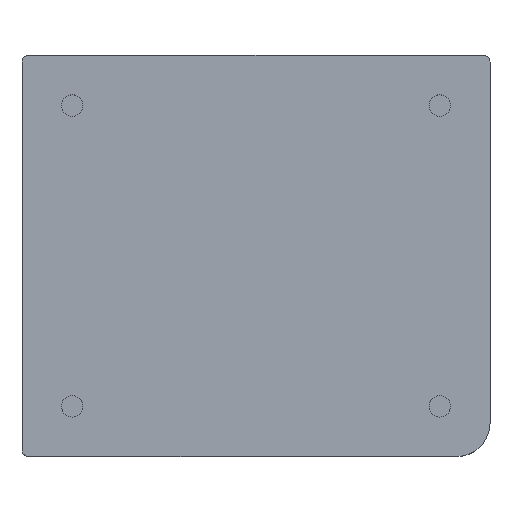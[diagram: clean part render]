
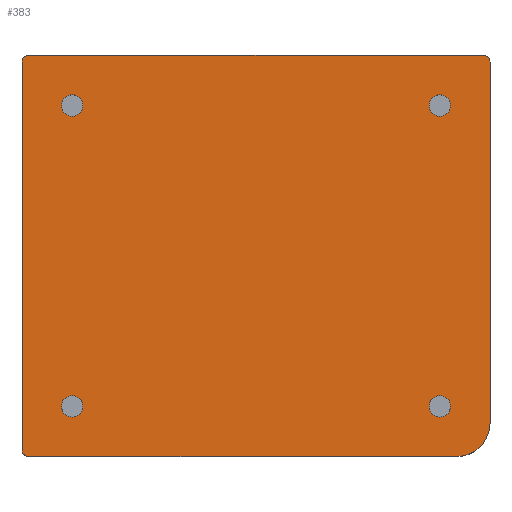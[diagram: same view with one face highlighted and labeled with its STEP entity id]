
A CAD part, top view. The second image highlights one B-rep face of the part: STEP entity #383.
In plain terms, the highlighted planar face has unit normal (0, 0, 1).
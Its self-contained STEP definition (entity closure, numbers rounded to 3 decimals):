
#39=AXIS2_PLACEMENT_3D('Circle Axis2P3D',#37,#38,$) ;
#110=AXIS2_PLACEMENT_3D('Circle Axis2P3D',#108,#109,$) ;
#172=AXIS2_PLACEMENT_3D('Circle Axis2P3D',#170,#171,$) ;
#286=AXIS2_PLACEMENT_3D('Circle Axis2P3D',#284,#285,$) ;
#299=AXIS2_PLACEMENT_3D('Plane Axis2P3D',#296,#297,#298) ;
#313=AXIS2_PLACEMENT_3D('Circle Axis2P3D',#311,#312,$) ;
#322=AXIS2_PLACEMENT_3D('Circle Axis2P3D',#320,#321,$) ;
#331=AXIS2_PLACEMENT_3D('Circle Axis2P3D',#329,#330,$) ;
#340=AXIS2_PLACEMENT_3D('Circle Axis2P3D',#338,#339,$) ;
#349=AXIS2_PLACEMENT_3D('Circle Axis2P3D',#347,#348,$) ;
#358=AXIS2_PLACEMENT_3D('Circle Axis2P3D',#356,#357,$) ;
#367=AXIS2_PLACEMENT_3D('Circle Axis2P3D',#365,#366,$) ;
#376=AXIS2_PLACEMENT_3D('Circle Axis2P3D',#374,#375,$) ;
#37=CARTESIAN_POINT('Axis2P3D Location',(1.,-59.,18.1)) ;
#41=CARTESIAN_POINT('Vertex',(1.,-60.,18.1)) ;
#43=CARTESIAN_POINT('Vertex',(0.,-59.,18.1)) ;
#84=CARTESIAN_POINT('Line Origine',(0.,-30.,18.1)) ;
#88=CARTESIAN_POINT('Vertex',(0.,-1.,18.1)) ;
#108=CARTESIAN_POINT('Axis2P3D Location',(1.,-1.,18.1)) ;
#112=CARTESIAN_POINT('Vertex',(1.,0.,18.1)) ;
#145=CARTESIAN_POINT('Vertex',(69.,0.,18.1)) ;
#153=CARTESIAN_POINT('Line Origine',(35.,0.,18.1)) ;
#170=CARTESIAN_POINT('Axis2P3D Location',(69.,-1.,18.1)) ;
#174=CARTESIAN_POINT('Vertex',(70.,-1.,18.1)) ;
#207=CARTESIAN_POINT('Vertex',(65.,-60.,18.1)) ;
#210=CARTESIAN_POINT('Line Origine',(33.,-60.,18.1)) ;
#239=CARTESIAN_POINT('Line Origine',(70.,-28.,18.1)) ;
#243=CARTESIAN_POINT('Vertex',(70.,-55.,18.1)) ;
#284=CARTESIAN_POINT('Axis2P3D Location',(65.,-55.,18.1)) ;
#296=CARTESIAN_POINT('Axis2P3D Location',(0.,0.,18.1)) ;
#311=CARTESIAN_POINT('Axis2P3D Location',(7.5,-7.5,18.1)) ;
#315=CARTESIAN_POINT('Vertex',(9.1,-7.5,18.1)) ;
#317=CARTESIAN_POINT('Vertex',(5.9,-7.5,18.1)) ;
#320=CARTESIAN_POINT('Axis2P3D Location',(7.5,-7.5,18.1)) ;
#329=CARTESIAN_POINT('Axis2P3D Location',(62.5,-7.5,18.1)) ;
#333=CARTESIAN_POINT('Vertex',(64.1,-7.5,18.1)) ;
#335=CARTESIAN_POINT('Vertex',(60.9,-7.5,18.1)) ;
#338=CARTESIAN_POINT('Axis2P3D Location',(62.5,-7.5,18.1)) ;
#347=CARTESIAN_POINT('Axis2P3D Location',(62.5,-52.5,18.1)) ;
#351=CARTESIAN_POINT('Vertex',(64.1,-52.5,18.1)) ;
#353=CARTESIAN_POINT('Vertex',(60.9,-52.5,18.1)) ;
#356=CARTESIAN_POINT('Axis2P3D Location',(62.5,-52.5,18.1)) ;
#365=CARTESIAN_POINT('Axis2P3D Location',(7.5,-52.5,18.1)) ;
#369=CARTESIAN_POINT('Vertex',(9.1,-52.5,18.1)) ;
#371=CARTESIAN_POINT('Vertex',(5.9,-52.5,18.1)) ;
#374=CARTESIAN_POINT('Axis2P3D Location',(7.5,-52.5,18.1)) ;
#38=DIRECTION('Axis2P3D Direction',(0.,0.,1.)) ;
#85=DIRECTION('Vector Direction',(0.,-1.,0.)) ;
#109=DIRECTION('Axis2P3D Direction',(0.,0.,1.)) ;
#154=DIRECTION('Vector Direction',(1.,0.,0.)) ;
#171=DIRECTION('Axis2P3D Direction',(0.,-0.,1.)) ;
#211=DIRECTION('Vector Direction',(-1.,0.,0.)) ;
#240=DIRECTION('Vector Direction',(0.,1.,0.)) ;
#285=DIRECTION('Axis2P3D Direction',(0.,0.,1.)) ;
#297=DIRECTION('Axis2P3D Direction',(0.,0.,1.)) ;
#298=DIRECTION('Axis2P3D XDirection',(1.,0.,0.)) ;
#312=DIRECTION('Axis2P3D Direction',(0.,0.,1.)) ;
#321=DIRECTION('Axis2P3D Direction',(0.,0.,1.)) ;
#330=DIRECTION('Axis2P3D Direction',(0.,0.,1.)) ;
#339=DIRECTION('Axis2P3D Direction',(0.,0.,1.)) ;
#348=DIRECTION('Axis2P3D Direction',(0.,0.,1.)) ;
#357=DIRECTION('Axis2P3D Direction',(0.,0.,1.)) ;
#366=DIRECTION('Axis2P3D Direction',(0.,0.,1.)) ;
#375=DIRECTION('Axis2P3D Direction',(0.,0.,1.)) ;
#86=VECTOR('Line Direction',#85,1.) ;
#155=VECTOR('Line Direction',#154,1.) ;
#212=VECTOR('Line Direction',#211,1.) ;
#241=VECTOR('Line Direction',#240,1.) ;
#302=ORIENTED_EDGE('',*,*,#245,.T.) ;
#303=ORIENTED_EDGE('',*,*,#176,.F.) ;
#304=ORIENTED_EDGE('',*,*,#157,.T.) ;
#305=ORIENTED_EDGE('',*,*,#114,.F.) ;
#306=ORIENTED_EDGE('',*,*,#90,.T.) ;
#307=ORIENTED_EDGE('',*,*,#45,.F.) ;
#308=ORIENTED_EDGE('',*,*,#214,.T.) ;
#309=ORIENTED_EDGE('',*,*,#288,.F.) ;
#326=ORIENTED_EDGE('',*,*,#319,.F.) ;
#327=ORIENTED_EDGE('',*,*,#324,.F.) ;
#344=ORIENTED_EDGE('',*,*,#337,.F.) ;
#345=ORIENTED_EDGE('',*,*,#342,.F.) ;
#362=ORIENTED_EDGE('',*,*,#355,.F.) ;
#363=ORIENTED_EDGE('',*,*,#360,.F.) ;
#380=ORIENTED_EDGE('',*,*,#373,.F.) ;
#381=ORIENTED_EDGE('',*,*,#378,.F.) ;
#328=FACE_BOUND('',#325,.T.) ;
#346=FACE_BOUND('',#343,.T.) ;
#364=FACE_BOUND('',#361,.T.) ;
#382=FACE_BOUND('',#379,.T.) ;
#383=ADVANCED_FACE('\X2\96F64EF651E04F554F53\X0\',(#310,#328,#346,#364,#382),#300,.T.) ;
#40=CIRCLE('generated circle',#39,1.) ;
#111=CIRCLE('generated circle',#110,1.) ;
#173=CIRCLE('generated circle',#172,1.) ;
#287=CIRCLE('generated circle',#286,5.) ;
#314=CIRCLE('generated circle',#313,1.6) ;
#323=CIRCLE('generated circle',#322,1.6) ;
#332=CIRCLE('generated circle',#331,1.6) ;
#341=CIRCLE('generated circle',#340,1.6) ;
#350=CIRCLE('generated circle',#349,1.6) ;
#359=CIRCLE('generated circle',#358,1.6) ;
#368=CIRCLE('generated circle',#367,1.6) ;
#377=CIRCLE('generated circle',#376,1.6) ;
#45=EDGE_CURVE('',#42,#44,#40,.F.) ;
#90=EDGE_CURVE('',#89,#44,#87,.T.) ;
#114=EDGE_CURVE('',#89,#113,#111,.F.) ;
#157=EDGE_CURVE('',#146,#113,#156,.F.) ;
#176=EDGE_CURVE('',#146,#175,#173,.F.) ;
#214=EDGE_CURVE('',#42,#208,#213,.F.) ;
#245=EDGE_CURVE('',#244,#175,#242,.T.) ;
#288=EDGE_CURVE('',#244,#208,#287,.F.) ;
#319=EDGE_CURVE('',#316,#318,#314,.T.) ;
#324=EDGE_CURVE('',#318,#316,#323,.T.) ;
#337=EDGE_CURVE('',#334,#336,#332,.T.) ;
#342=EDGE_CURVE('',#336,#334,#341,.T.) ;
#355=EDGE_CURVE('',#352,#354,#350,.T.) ;
#360=EDGE_CURVE('',#354,#352,#359,.T.) ;
#373=EDGE_CURVE('',#370,#372,#368,.T.) ;
#378=EDGE_CURVE('',#372,#370,#377,.T.) ;
#301=EDGE_LOOP('',(#302,#303,#304,#305,#306,#307,#308,#309)) ;
#325=EDGE_LOOP('',(#326,#327)) ;
#343=EDGE_LOOP('',(#344,#345)) ;
#361=EDGE_LOOP('',(#362,#363)) ;
#379=EDGE_LOOP('',(#380,#381)) ;
#310=FACE_OUTER_BOUND('',#301,.T.) ;
#87=LINE('Line',#84,#86) ;
#156=LINE('Line',#153,#155) ;
#213=LINE('Line',#210,#212) ;
#242=LINE('Line',#239,#241) ;
#300=PLANE('',#299) ;
#42=VERTEX_POINT('',#41) ;
#44=VERTEX_POINT('',#43) ;
#89=VERTEX_POINT('',#88) ;
#113=VERTEX_POINT('',#112) ;
#146=VERTEX_POINT('',#145) ;
#175=VERTEX_POINT('',#174) ;
#208=VERTEX_POINT('',#207) ;
#244=VERTEX_POINT('',#243) ;
#316=VERTEX_POINT('',#315) ;
#318=VERTEX_POINT('',#317) ;
#334=VERTEX_POINT('',#333) ;
#336=VERTEX_POINT('',#335) ;
#352=VERTEX_POINT('',#351) ;
#354=VERTEX_POINT('',#353) ;
#370=VERTEX_POINT('',#369) ;
#372=VERTEX_POINT('',#371) ;
